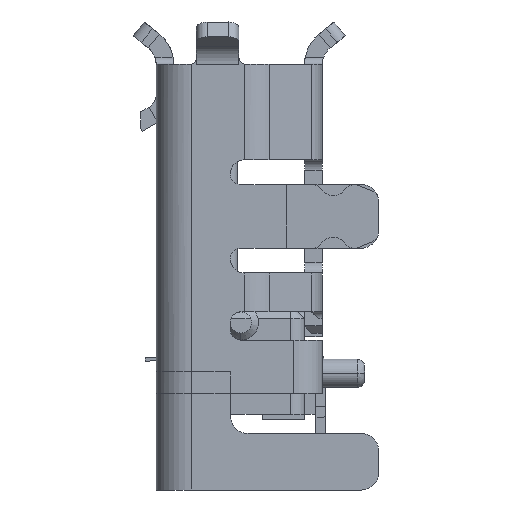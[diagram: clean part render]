
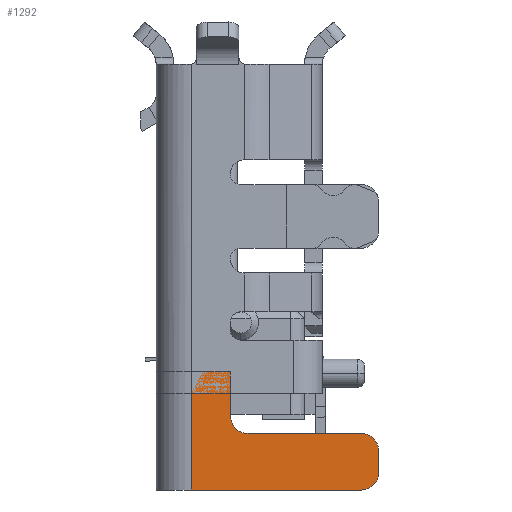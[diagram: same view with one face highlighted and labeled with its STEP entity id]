
A CAD part, left-side view. The second image highlights one B-rep face of the part: STEP entity #1292.
In plain terms, the highlighted planar face has unit normal (-1, 0, 0).
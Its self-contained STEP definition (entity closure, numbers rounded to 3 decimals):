
#1009=DIRECTION('',(0.,0.,1.));
#1010=VECTOR('',#1009,1.67);
#1011=CARTESIAN_POINT('',(-3.7,-0.2,-2.52));
#1012=LINE('',#1011,#1010);
#1017=CARTESIAN_POINT('',(-3.7,-1.,-1.47));
#1018=DIRECTION('',(1.,0.,0.));
#1019=DIRECTION('',(0.,0.,-1.));
#1020=AXIS2_PLACEMENT_3D('',#1017,#1018,#1019);
#1022=DIRECTION('',(0.,1.,0.));
#1023=VECTOR('',#1022,1.6);
#1024=CARTESIAN_POINT('',(-3.7,-2.6,-1.72));
#1025=LINE('',#1024,#1023);
#1026=CARTESIAN_POINT('',(-3.7,-2.6,-1.97));
#1027=DIRECTION('',(-1.,0.,0.));
#1028=DIRECTION('',(0.,-1.,0.));
#1029=AXIS2_PLACEMENT_3D('',#1026,#1027,#1028);
#1031=DIRECTION('',(0.,0.,1.));
#1032=VECTOR('',#1031,0.3);
#1033=CARTESIAN_POINT('',(-3.7,-2.85,-2.27));
#1034=LINE('',#1033,#1032);
#1035=CARTESIAN_POINT('',(-3.7,-2.6,-2.27));
#1036=DIRECTION('',(-1.,0.,0.));
#1037=DIRECTION('',(0.,0.,-1.));
#1038=AXIS2_PLACEMENT_3D('',#1035,#1036,#1037);
#1040=DIRECTION('',(0.,-1.,0.));
#1041=VECTOR('',#1040,2.4);
#1042=CARTESIAN_POINT('',(-3.7,-0.2,-2.52));
#1043=LINE('',#1042,#1041);
#1044=DIRECTION('',(0.,0.,1.));
#1045=VECTOR('',#1044,0.62);
#1046=CARTESIAN_POINT('',(-3.7,-0.75,-1.47));
#1047=LINE('',#1046,#1045);
#1104=DIRECTION('',(0.,-1.,0.));
#1105=VECTOR('',#1104,0.55);
#1106=CARTESIAN_POINT('',(-3.7,-0.2,-0.85));
#1107=LINE('',#1106,#1105);
#1167=CARTESIAN_POINT('',(-3.7,-0.2,-0.85));
#1168=VERTEX_POINT('',#1167);
#1169=CARTESIAN_POINT('',(-3.7,-0.75,-0.85));
#1170=VERTEX_POINT('',#1169);
#1181=CARTESIAN_POINT('',(-3.7,-0.2,-2.52));
#1182=VERTEX_POINT('',#1181);
#1183=CARTESIAN_POINT('',(-3.7,-2.6,-2.52));
#1184=VERTEX_POINT('',#1183);
#1189=CARTESIAN_POINT('',(-3.7,-2.85,-2.27));
#1190=VERTEX_POINT('',#1189);
#1191=CARTESIAN_POINT('',(-3.7,-2.85,-1.97));
#1192=VERTEX_POINT('',#1191);
#1195=CARTESIAN_POINT('',(-3.7,-2.6,-1.72));
#1196=VERTEX_POINT('',#1195);
#1199=CARTESIAN_POINT('',(-3.7,-1.,-1.72));
#1200=CARTESIAN_POINT('',(-3.7,-0.75,-1.47));
#1201=VERTEX_POINT('',#1199);
#1202=VERTEX_POINT('',#1200);
#1268=CARTESIAN_POINT('',(-3.7,-0.75,-1.15));
#1269=DIRECTION('',(-1.,0.,0.));
#1270=DIRECTION('',(0.,1.,0.));
#1271=AXIS2_PLACEMENT_3D('',#1268,#1269,#1270);
#1272=PLANE('',#1271);
#1274=ORIENTED_EDGE('',*,*,#1273,.F.);
#1276=ORIENTED_EDGE('',*,*,#1275,.F.);
#1278=ORIENTED_EDGE('',*,*,#1277,.F.);
#1280=ORIENTED_EDGE('',*,*,#1279,.F.);
#1282=ORIENTED_EDGE('',*,*,#1281,.F.);
#1284=ORIENTED_EDGE('',*,*,#1283,.F.);
#1285=ORIENTED_EDGE('',*,*,#1258,.T.);
#1287=ORIENTED_EDGE('',*,*,#1286,.T.);
#1289=ORIENTED_EDGE('',*,*,#1288,.F.);
#1290=EDGE_LOOP('',(#1274,#1276,#1278,#1280,#1282,#1284,#1285,#1287,#1289));
#1291=FACE_OUTER_BOUND('',#1290,.F.);
#1021=CIRCLE('',#1020,0.25);
#1030=CIRCLE('',#1029,0.25);
#1039=CIRCLE('',#1038,0.25);
#1258=EDGE_CURVE('',#1182,#1168,#1012,.T.);
#1273=EDGE_CURVE('',#1201,#1202,#1021,.T.);
#1275=EDGE_CURVE('',#1196,#1201,#1025,.T.);
#1277=EDGE_CURVE('',#1192,#1196,#1030,.T.);
#1279=EDGE_CURVE('',#1190,#1192,#1034,.T.);
#1281=EDGE_CURVE('',#1184,#1190,#1039,.T.);
#1283=EDGE_CURVE('',#1182,#1184,#1043,.T.);
#1286=EDGE_CURVE('',#1168,#1170,#1107,.T.);
#1288=EDGE_CURVE('',#1202,#1170,#1047,.T.);
#1292=ADVANCED_FACE('',(#1291),#1272,.T.);
